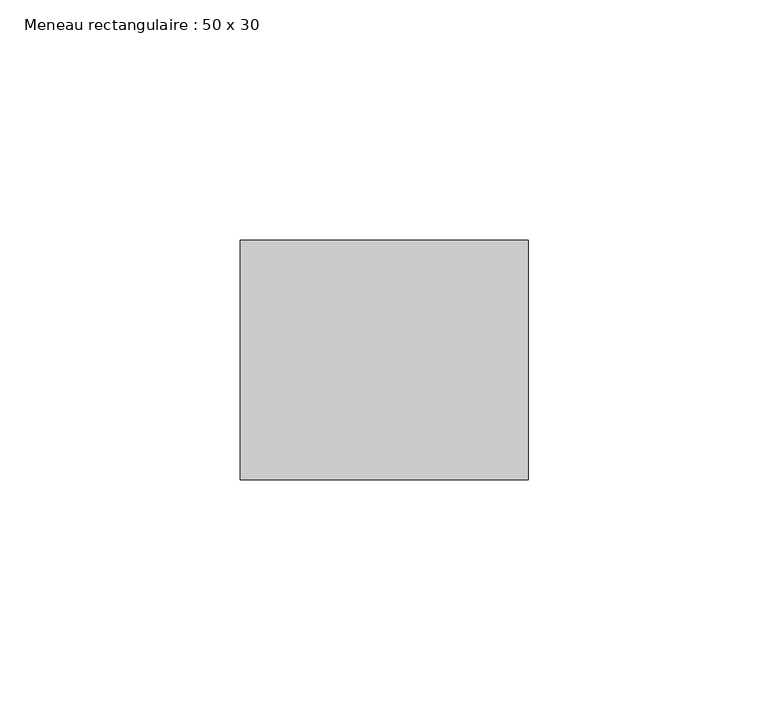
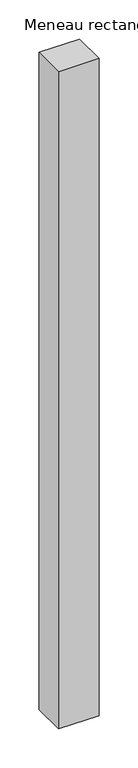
"""IFC4 building model written with IfcOpenShell, lengths in millimetres: member geometry, Meneau rectangulaire : 50 x 30."""

from ifc_helpers import new_model, si_unit, frame, origin, place, context, project, spatial, polyline, outline, extrude, source, transform, mapped, element, save


def meneau_rectangulaire_50_x_30_4832792b(model_context):
    return source(origin(), model_context, "Body", "SweptSolid", [
        extrude(outline(polyline([(0.0, 0.0), (0.0, -50.0), (-60.0, -50.0), (-60.0, 0.0), (0.0, 0.0)])), frame((0.0, 0.0, -1028.0), z_axis=(0.0, 0.0, 1.0), x_axis=(1.0, 0.0, 0.0)), (0.0, 0.0, 1.0), 1028.0),
    ])


if __name__ == "__main__":
    model = new_model("IFC4")
    model_context = context("Model", 3, world=origin())
    ifc_project = project(units=[si_unit("LENGTHUNIT", "METRE", prefix="MILLI")], contexts=[model_context])
    site = spatial("IfcSite", under=ifc_project)
    building = spatial("IfcBuilding", under=site)
    placement = place(None, origin())
    meneau_rectangulaire_50_x_30_shape = meneau_rectangulaire_50_x_30_4832792b(model_context)
    element("IfcMember", 1, ObjectType="Meneau rectangulaire : 50 x 30", at=placement, inside=building, context=model_context, shape_type="MappedRepresentation", body=[
        mapped(meneau_rectangulaire_50_x_30_shape, transform((0.0, 0.0, 0.0), x_axis=(1.0, 0.0, 0.0), y_axis=(0.0, 1.0, 0.0), z_axis=(0.0, 0.0, 1.0))),
    ])
    save(model, "model.ifc")
